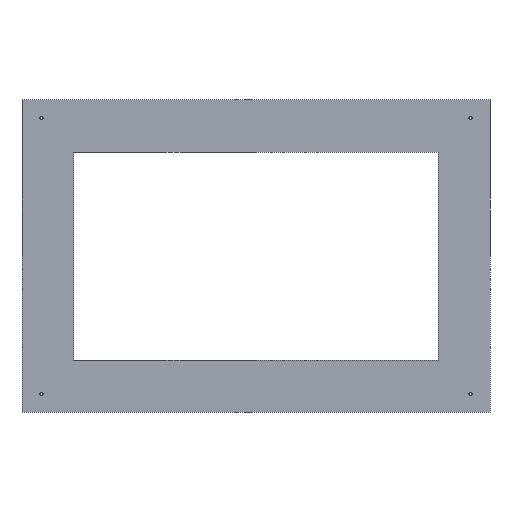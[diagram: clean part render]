
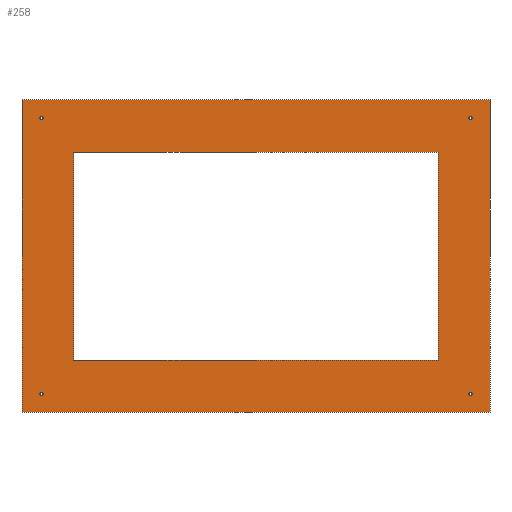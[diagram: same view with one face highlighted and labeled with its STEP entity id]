
A CAD part, front view. The second image highlights one B-rep face of the part: STEP entity #258.
In plain terms, the highlighted planar face has unit normal (0, -1, 0).
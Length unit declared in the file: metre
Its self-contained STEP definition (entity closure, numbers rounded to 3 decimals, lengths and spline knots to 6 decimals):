
#16=LINE('',#385,#40);
#17=LINE('',#388,#41);
#18=LINE('',#390,#42);
#19=LINE('',#392,#43);
#20=LINE('',#393,#44);
#21=LINE('',#396,#45);
#22=LINE('',#398,#46);
#23=LINE('',#400,#47);
#40=VECTOR('',#317,1.);
#41=VECTOR('',#318,1.);
#42=VECTOR('',#319,1.);
#43=VECTOR('',#320,1.);
#44=VECTOR('',#321,1.);
#45=VECTOR('',#322,1.);
#46=VECTOR('',#323,1.);
#47=VECTOR('',#324,1.);
#64=ORIENTED_EDGE('',*,*,#128,.T.);
#65=ORIENTED_EDGE('',*,*,#129,.F.);
#66=ORIENTED_EDGE('',*,*,#130,.F.);
#67=ORIENTED_EDGE('',*,*,#131,.F.);
#68=ORIENTED_EDGE('',*,*,#132,.T.);
#69=ORIENTED_EDGE('',*,*,#133,.T.);
#70=ORIENTED_EDGE('',*,*,#134,.F.);
#71=ORIENTED_EDGE('',*,*,#135,.F.);
#72=ORIENTED_EDGE('',*,*,#136,.T.);
#73=ORIENTED_EDGE('',*,*,#137,.T.);
#74=ORIENTED_EDGE('',*,*,#138,.F.);
#75=ORIENTED_EDGE('',*,*,#139,.T.);
#128=EDGE_CURVE('',#160,#160,#184,.F.);
#129=EDGE_CURVE('',#161,#161,#185,.T.);
#130=EDGE_CURVE('',#162,#162,#186,.T.);
#131=EDGE_CURVE('',#163,#164,#16,.T.);
#132=EDGE_CURVE('',#163,#165,#17,.T.);
#133=EDGE_CURVE('',#165,#166,#18,.T.);
#134=EDGE_CURVE('',#164,#166,#19,.T.);
#135=EDGE_CURVE('',#167,#168,#20,.T.);
#136=EDGE_CURVE('',#167,#169,#21,.T.);
#137=EDGE_CURVE('',#169,#170,#22,.T.);
#138=EDGE_CURVE('',#168,#170,#23,.T.);
#139=EDGE_CURVE('',#171,#171,#187,.F.);
#160=VERTEX_POINT('',#380);
#161=VERTEX_POINT('',#382);
#162=VERTEX_POINT('',#384);
#163=VERTEX_POINT('',#386);
#164=VERTEX_POINT('',#387);
#165=VERTEX_POINT('',#389);
#166=VERTEX_POINT('',#391);
#167=VERTEX_POINT('',#394);
#168=VERTEX_POINT('',#395);
#169=VERTEX_POINT('',#397);
#170=VERTEX_POINT('',#399);
#171=VERTEX_POINT('',#402);
#184=CIRCLE('',#286,0.001613);
#185=CIRCLE('',#287,0.001613);
#186=CIRCLE('',#288,0.001613);
#187=CIRCLE('',#289,0.001613);
#192=EDGE_LOOP('',(#64));
#193=EDGE_LOOP('',(#65));
#194=EDGE_LOOP('',(#66));
#195=EDGE_LOOP('',(#67,#68,#69,#70));
#196=EDGE_LOOP('',(#71,#72,#73,#74));
#197=EDGE_LOOP('',(#75));
#220=FACE_BOUND('',#192,.T.);
#221=FACE_BOUND('',#193,.T.);
#222=FACE_BOUND('',#194,.T.);
#223=FACE_BOUND('',#195,.T.);
#224=FACE_BOUND('',#196,.T.);
#225=FACE_BOUND('',#197,.T.);
#248=PLANE('',#285);
#258=ADVANCED_FACE('',(#220,#221,#222,#223,#224,#225),#248,.T.);
#285=AXIS2_PLACEMENT_3D('',#378,#309,#310);
#286=AXIS2_PLACEMENT_3D('',#379,#311,#312);
#287=AXIS2_PLACEMENT_3D('',#381,#313,#314);
#288=AXIS2_PLACEMENT_3D('',#383,#315,#316);
#289=AXIS2_PLACEMENT_3D('',#401,#325,#326);
#309=DIRECTION('',(0.,-1.,0.));
#310=DIRECTION('',(1.,0.,0.));
#311=DIRECTION('',(0.,-1.,0.));
#312=DIRECTION('',(0.,0.,-1.));
#313=DIRECTION('',(0.,-1.,0.));
#314=DIRECTION('',(0.,0.,-1.));
#315=DIRECTION('',(0.,-1.,0.));
#316=DIRECTION('',(0.,0.,-1.));
#317=DIRECTION('',(0.,0.,-1.));
#318=DIRECTION('',(1.,0.,0.));
#319=DIRECTION('',(0.,0.,-1.));
#320=DIRECTION('',(1.,0.,0.));
#321=DIRECTION('',(1.,0.,0.));
#322=DIRECTION('',(0.,0.,-1.));
#323=DIRECTION('',(1.,0.,0.));
#324=DIRECTION('',(0.,0.,-1.));
#325=DIRECTION('',(0.,-1.,0.));
#326=DIRECTION('',(0.,0.,-1.));
#378=CARTESIAN_POINT('',(0.,-0.00635,0.));
#379=CARTESIAN_POINT('',(0.20955,-0.00635,-0.134938));
#380=CARTESIAN_POINT('',(0.20955,-0.00635,-0.13655));
#381=CARTESIAN_POINT('',(-0.20955,-0.00635,-0.134938));
#382=CARTESIAN_POINT('',(-0.20955,-0.00635,-0.13655));
#383=CARTESIAN_POINT('',(0.20955,-0.00635,0.134938));
#384=CARTESIAN_POINT('',(0.20955,-0.00635,0.133325));
#385=CARTESIAN_POINT('',(-0.1778,-0.00635,0.));
#386=CARTESIAN_POINT('',(-0.1778,-0.00635,0.1016));
#387=CARTESIAN_POINT('',(-0.1778,-0.00635,-0.1016));
#388=CARTESIAN_POINT('',(0.,-0.00635,0.1016));
#389=CARTESIAN_POINT('',(0.1778,-0.00635,0.1016));
#390=CARTESIAN_POINT('',(0.1778,-0.00635,0.));
#391=CARTESIAN_POINT('',(0.1778,-0.00635,-0.1016));
#392=CARTESIAN_POINT('',(0.,-0.00635,-0.1016));
#393=CARTESIAN_POINT('',(0.,-0.00635,0.1524));
#394=CARTESIAN_POINT('',(-0.2286,-0.00635,0.1524));
#395=CARTESIAN_POINT('',(0.2286,-0.00635,0.1524));
#396=CARTESIAN_POINT('',(-0.2286,-0.00635,0.));
#397=CARTESIAN_POINT('',(-0.2286,-0.00635,-0.1524));
#398=CARTESIAN_POINT('',(0.,-0.00635,-0.1524));
#399=CARTESIAN_POINT('',(0.2286,-0.00635,-0.1524));
#400=CARTESIAN_POINT('',(0.2286,-0.00635,0.));
#401=CARTESIAN_POINT('',(-0.20955,-0.00635,0.134938));
#402=CARTESIAN_POINT('',(-0.20955,-0.00635,0.133325));
